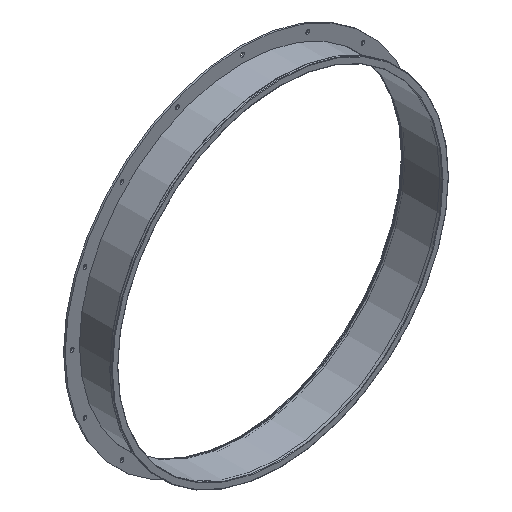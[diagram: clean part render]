
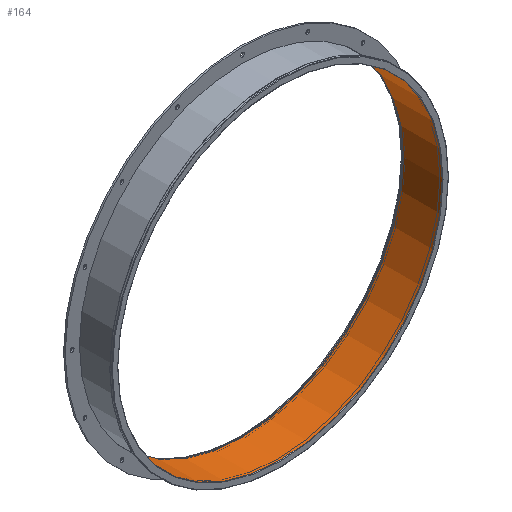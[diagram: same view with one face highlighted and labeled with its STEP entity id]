
A CAD part, isometric view. The second image highlights one B-rep face of the part: STEP entity #164.
In plain terms, the highlighted cylindrical face has radius 400 mm (diameter 800 mm), a full revolution.
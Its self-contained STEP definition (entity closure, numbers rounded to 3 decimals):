
#129=CYLINDRICAL_SURFACE('',#771,400.);
#164=ADVANCED_FACE('',(#277,#278),#129,.F.);
#277=FACE_BOUND('',#389,.T.);
#278=FACE_BOUND('',#390,.T.);
#389=EDGE_LOOP('',(#501));
#390=EDGE_LOOP('',(#502));
#501=ORIENTED_EDGE('',*,*,#624,.T.);
#502=ORIENTED_EDGE('',*,*,#625,.T.);
#568=VERTEX_POINT('',#1112);
#569=VERTEX_POINT('',#1114);
#624=EDGE_CURVE('',#568,#568,#680,.T.);
#625=EDGE_CURVE('',#569,#569,#681,.T.);
#680=CIRCLE('',#769,400.);
#681=CIRCLE('',#770,400.);
#769=AXIS2_PLACEMENT_3D('',#1111,#950,#951);
#770=AXIS2_PLACEMENT_3D('',#1113,#952,#953);
#771=AXIS2_PLACEMENT_3D('',#1115,#954,#955);
#950=DIRECTION('',(0.,-1.,0.));
#951=DIRECTION('',(-1.,0.,0.));
#952=DIRECTION('',(0.,1.,0.));
#953=DIRECTION('',(1.,0.,0.));
#954=DIRECTION('',(0.,1.,0.));
#955=DIRECTION('',(1.,0.,0.));
#1111=CARTESIAN_POINT('',(0.,1.,0.));
#1112=CARTESIAN_POINT('',(-400.,1.,0.));
#1113=CARTESIAN_POINT('',(0.,99.,0.));
#1114=CARTESIAN_POINT('',(400.,99.,0.));
#1115=CARTESIAN_POINT('',(0.,-192.076,0.));
